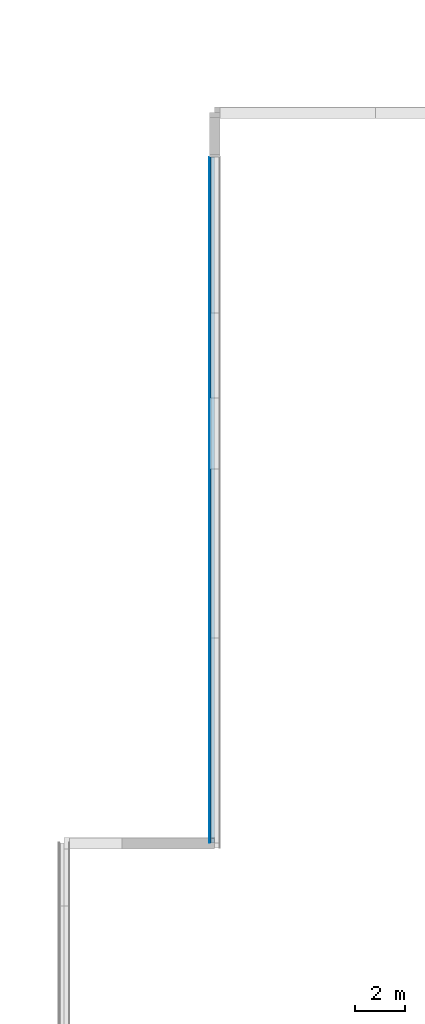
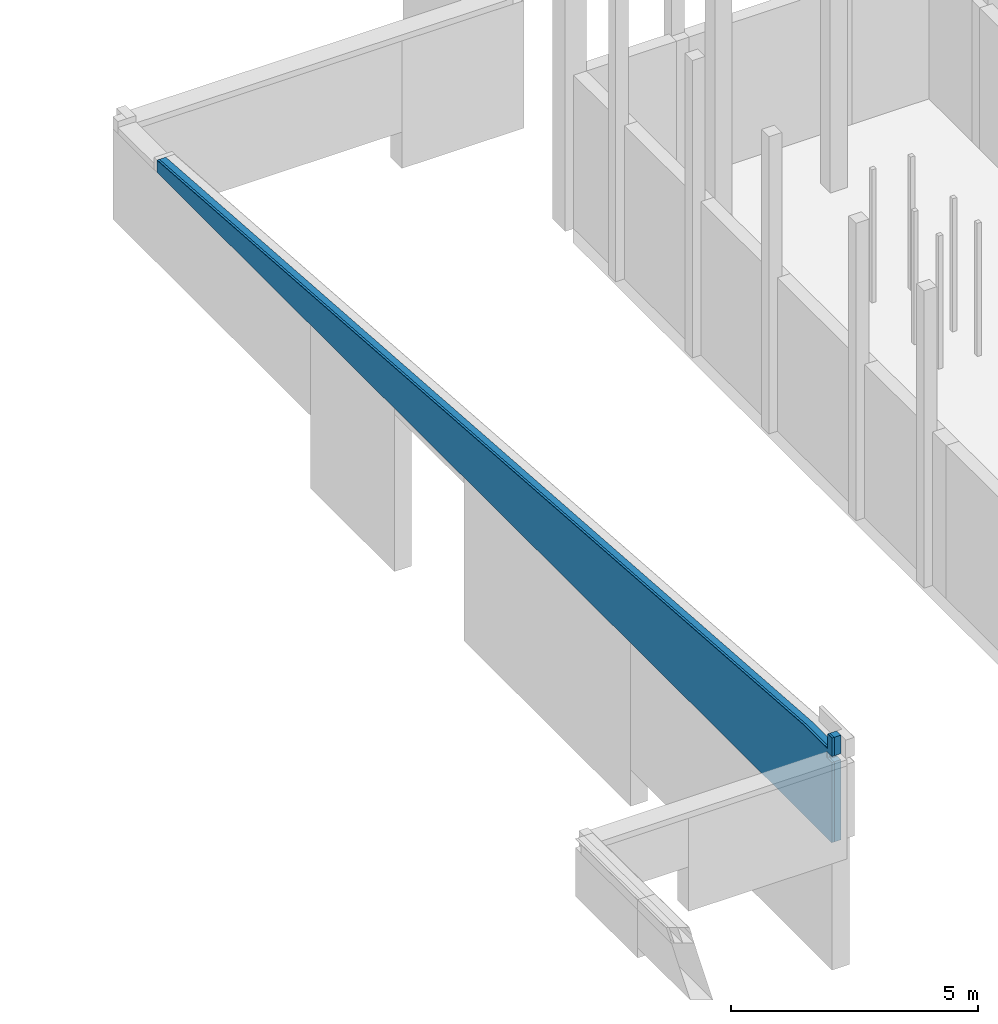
# One storey, part 12 of 17: 3 building element parts, 1 element without a shape of its own.
"""IFC2X3 building model written with IfcOpenShell, lengths in millimetres."""

import ifcopenshell
import ifcopenshell.guid

model = None  # the IFC model being written
_history = None  # IfcOwnerHistory: only IFC2X3 demands one
_inside = {}  # id of a spatial element -> (the spatial element, [elements in it])
_under = {}  # id of a project, library or spatial element -> (it, [spatial elements below it])
_declared = {}  # id of a project -> (the project, [libraries it declares])
_typed = {}  # id of a type object -> (the type object, [elements of that type])
_made_of = {}  # id of a material, layer set ... -> (it, [elements and type objects made of it])


def new_model(schema):
    """Start an empty IFC model of exactly this schema.

    Asked for "IFC4X3", IfcOpenShell would pick the latest addendum, in which some entities
    have other attributes; the version numbers below select the first issue.
    IFC2X3 requires an IfcOwnerHistory on every rooted entity: one is made here for all.
    """
    global model, _history
    if schema == "IFC4X3":
        model = ifcopenshell.file(schema_version=(4, 3, 0, 0))
    else:
        model = ifcopenshell.file(schema=schema)
    _inside.clear()
    _under.clear()
    _declared.clear()
    _typed.clear()
    _made_of.clear()
    _history = None
    if model.schema == "IFC2X3":
        org = make("IfcOrganization", Name="unknown")
        user = make(
            "IfcPersonAndOrganization",
            ThePerson=make("IfcPerson", FamilyName="unknown"),
            TheOrganization=org,
        )
        app = make(
            "IfcApplication",
            ApplicationDeveloper=org,
            Version="unknown",
            ApplicationFullName="unknown",
            ApplicationIdentifier="unknown",
        )
        _history = make(
            "IfcOwnerHistory",
            OwningUser=user,
            OwningApplication=app,
            ChangeAction="ADDED",
            CreationDate=0,
        )
    return model


def make(cls, **values):
    """One entity of the class cls with the attributes given. An attribute that is None is left unset."""
    return model.create_entity(
        cls, **{name: value for name, value in values.items() if value is not None}
    )


def entity(cls, *values):
    """Any entity or typed value of the class cls, its attributes in the order of the schema. None: left unset."""
    e = model.create_entity(cls)
    for i, value in enumerate(values):
        if value is not None:
            e[i] = value
    return e


def rooted(cls, **values):
    """An entity with a GlobalId (a new one), such as an element, a storey or a relation."""
    return make(cls, GlobalId=ifcopenshell.guid.new(), OwnerHistory=_history, **values)


def si_unit(unit_type, name, prefix=None):
    """IfcSIUnit, for example si_unit("LENGTHUNIT", "METRE", prefix="MILLI")."""
    return make("IfcSIUnit", UnitType=unit_type, Prefix=prefix, Name=name)


def converted_unit(unit_type, name, factor, base, dimensions=None, offset=None):
    """IfcConversionBasedUnit, such as the inch: factor (a typed value) times the base unit."""
    return make(
        "IfcConversionBasedUnit"
        if offset is None
        else "IfcConversionBasedUnitWithOffset",
        ConversionOffset=offset,
        Dimensions=None
        if dimensions is None
        else entity("IfcDimensionalExponents", *dimensions),
        UnitType=unit_type,
        Name=name,
        ConversionFactor=make(
            "IfcMeasureWithUnit", ValueComponent=factor, UnitComponent=base
        ),
    )


def derived_unit(unit_type, elements):
    """IfcDerivedUnit: a product of units, each with its exponent."""
    return make(
        "IfcDerivedUnit",
        Elements=[
            make("IfcDerivedUnitElement", Unit=unit, Exponent=power)
            for unit, power in elements
        ],
        UnitType=unit_type,
    )


def money_unit(currency):
    """IfcMonetaryUnit."""
    return make("IfcMonetaryUnit", Currency=currency)


def assignment(units):
    """IfcUnitAssignment: the units of a project."""
    return None if units is None else make("IfcUnitAssignment", Units=units)


def point(xyz):
    """IfcCartesianPoint."""
    return None if xyz is None else make("IfcCartesianPoint", Coordinates=xyz)


def direction(xyz):
    """IfcDirection."""
    return None if xyz is None else make("IfcDirection", DirectionRatios=xyz)


def frame(location, z_axis=None, x_axis=None):
    """IfcAxis2Placement3D, a coordinate frame: its origin and axes. An axis left out is left unset."""
    return make(
        "IfcAxis2Placement3D",
        Location=point(location),
        Axis=direction(z_axis),
        RefDirection=direction(x_axis),
    )


def origin_with_axes():
    """The frame at (0, 0, 0) with the z axis (0, 0, 1) and the x axis (1, 0, 0) written out."""
    return frame((0.0, 0.0, 0.0), z_axis=(0.0, 0.0, 1.0), x_axis=(1.0, 0.0, 0.0))


def place(relative_to, where):
    """IfcLocalPlacement: puts the frame where relative to a parent placement (None: the world)."""
    return make(
        "IfcLocalPlacement", PlacementRelTo=relative_to, RelativePlacement=where
    )


def context(
    kind, dimensions, precision=None, world=None, true_north=None, identifier=None
):
    """IfcGeometricRepresentationContext, for example the 3D "Model" context."""
    return make(
        "IfcGeometricRepresentationContext",
        ContextIdentifier=identifier,
        ContextType=kind,
        CoordinateSpaceDimension=dimensions,
        Precision=precision,
        WorldCoordinateSystem=world,
        TrueNorth=true_north,
    )


def subcontext(parent, identifier, kind, view, scale=None):
    """IfcGeometricRepresentationSubContext, for example "Body" below "Model"."""
    return make(
        "IfcGeometricRepresentationSubContext",
        ContextIdentifier=identifier,
        ContextType=kind,
        ParentContext=parent,
        TargetScale=scale,
        TargetView=view,
    )


def project(units=None, contexts=None):
    """IfcProject with its units and contexts."""
    return rooted(
        "IfcProject",
        Name="project",
        RepresentationContexts=contexts,
        UnitsInContext=assignment(units),
    )


def spatial(cls, under=None, at=None, **own):
    """A site, building, storey or space (cls), placed at a placement, below another one or the project."""
    s = rooted(cls, ObjectPlacement=at, **own)
    if under is not None:
        _under.setdefault(under.id(), (under, []))[1].append(s)
    return s


def polyline(points):
    """IfcPolyline through the points."""
    return make("IfcPolyline", Points=[point(p) for p in points])


def outline(outer, holes=None, kind="AREA"):
    """IfcArbitraryClosedProfileDef: a profile drawn as a closed curve; with holes, ...WithVoids."""
    if holes is None:
        return make("IfcArbitraryClosedProfileDef", ProfileType=kind, OuterCurve=outer)
    return make(
        "IfcArbitraryProfileDefWithVoids",
        ProfileType=kind,
        OuterCurve=outer,
        InnerCurves=holes,
    )


def extrude(swept, where, along, depth):
    """IfcExtrudedAreaSolid: the profile swept, set in the frame where, extruded along a direction by depth."""
    return make(
        "IfcExtrudedAreaSolid",
        SweptArea=swept,
        Position=where,
        ExtrudedDirection=direction(along),
        Depth=depth,
    )


def boolean(op, a, b):
    """IfcBooleanResult of two solids."""
    return make("IfcBooleanResult", Operator=op, FirstOperand=a, SecondOperand=b)


def faces_of(points, faces, orient=None, outer=None):
    """IfcFace entities. A face is a list of loops; a loop is a list of indices into points, from 0.

    orient and outer hold one flag for each loop. By default every Orientation is true, the
    first loop of a face is its IfcFaceOuterBound and the others are IfcFaceBound.
    """
    made = []
    for i, loops in enumerate(faces):
        bounds = []
        for j, loop in enumerate(loops):
            is_outer = j == 0 if outer is None else outer[i][j]
            bounds.append(
                make(
                    "IfcFaceOuterBound" if is_outer else "IfcFaceBound",
                    Bound=make("IfcPolyLoop", Polygon=[points[k] for k in loop]),
                    Orientation=True if orient is None else orient[i][j],
                )
            )
        made.append(make("IfcFace", Bounds=bounds))
    return made


def faceted_brep(points, faces, orient=None, outer=None, voids=None):
    """IfcFacetedBrep: a solid bounded by flat faces; with voids (closed shells), ...WithVoids."""
    shared = [point(p) for p in points]
    hull = make("IfcClosedShell", CfsFaces=faces_of(shared, faces, orient, outer))
    if voids is None:
        return make("IfcFacetedBrep", Outer=hull)
    return make(
        "IfcFacetedBrepWithVoids",
        Outer=hull,
        Voids=[
            make(cls, CfsFaces=faces_of(shared, fs, o, b)) for cls, fs, o, b in voids
        ],
    )


def shape(context_of_items, identifier, shape_type, items):
    """IfcShapeRepresentation: the items that make up one representation, for example the "Body"."""
    return make(
        "IfcShapeRepresentation",
        ContextOfItems=context_of_items,
        RepresentationIdentifier=identifier,
        RepresentationType=shape_type,
        Items=items,
    )


def material(Name=None, Category=None):
    """IfcMaterial."""
    return make("IfcMaterial", Name=Name, Category=Category)


def made_of(thing, what):
    """Note that an element or type object is made of a material, layer set ...; save() writes the relation."""
    if what is not None:
        _made_of.setdefault(what.id(), (what, []))[1].append(thing)
    return thing


def type_object(cls, material=None, **own):
    """A type object (cls), such as IfcWallType, which elements share."""
    return made_of(rooted(cls, **own), material)


def element(
    cls,
    number,
    at=None,
    inside=None,
    cuts=None,
    type_object=None,
    material=None,
    context=None,
    identifier="Body",
    shape_type=None,
    held_by="IfcProductDefinitionShape",
    body=None,
    shapes=None,
    **own,
):
    """One element of the class cls, such as IfcWall. Its Tag is "e" and its number.

    at: its placement. inside: the storey or other place that contains it. cuts: it is an
    opening in that element (IfcRelVoidsElement). A single representation is given by context,
    identifier, shape_type and body (its items); several are given by shapes. held_by: the class
    of the entity that holds the representations. save() writes the other relations.
    """
    e = rooted(cls, Tag="e%d" % number, ObjectPlacement=at, **own)
    if body is not None:
        shapes = [shape(context, identifier, shape_type, body)]
    if shapes is not None:
        e.Representation = make(held_by, Representations=shapes)
    if inside is not None:
        _inside.setdefault(inside.id(), (inside, []))[1].append(e)
    if cuts is not None:
        rooted(
            "IfcRelVoidsElement", RelatingBuildingElement=cuts, RelatedOpeningElement=e
        )
    if type_object is not None:
        _typed.setdefault(type_object.id(), (type_object, []))[1].append(e)
    return made_of(e, material)


def aggregate(whole, parts):
    """IfcRelAggregates: a whole, such as a stair, and the parts it consists of."""
    return rooted("IfcRelAggregates", RelatingObject=whole, RelatedObjects=parts)


def save(model, path):
    """Write the relations noted so far, then the file.

    IfcRelAggregates (storeys below a building ...), IfcRelContainedInSpatialStructure (elements
    in a storey), IfcRelDefinesByType, IfcRelAssociatesMaterial and IfcRelDeclares: one each for
    every whole, place, type object, material and project.
    """
    for whole, parts in _under.values():
        aggregate(whole, parts)
    for where, things in _inside.values():
        rooted(
            "IfcRelContainedInSpatialStructure",
            RelatedElements=things,
            RelatingStructure=where,
        )
    for kind, things in _typed.values():
        rooted("IfcRelDefinesByType", RelatedObjects=things, RelatingType=kind)
    for what, things in _made_of.values():
        rooted("IfcRelAssociatesMaterial", RelatedObjects=things, RelatingMaterial=what)
    for by, libraries in _declared.values():
        rooted("IfcRelDeclares", RelatingContext=by, RelatedDefinitions=libraries)
    model.write(path)


model = new_model("IFC2X3")

# Units and contexts
model_context = context("Model", 3, precision=0.01, world=origin_with_axes(), true_north=direction((0.0, 1.0)))
body_context = subcontext(model_context, "Body", "Model", "MODEL_VIEW")
ifc_project = project(units=[si_unit("LENGTHUNIT", "METRE", prefix="MILLI"), si_unit("AREAUNIT", "SQUARE_METRE"), si_unit("VOLUMEUNIT", "CUBIC_METRE"), converted_unit("PLANEANGLEUNIT", "DEGREE", entity("IfcPlaneAngleMeasure", 0.0174532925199), si_unit("PLANEANGLEUNIT", "RADIAN"), dimensions=[0, 0, 0, 0, 0, 0, 0]), si_unit("SOLIDANGLEUNIT", "STERADIAN"), money_unit("EUR"), converted_unit("TIMEUNIT", "Year", entity("IfcTimeMeasure", 31556926.0), si_unit("TIMEUNIT", "SECOND"), dimensions=[0, 0, 1, 0, 0, 0, 0]), si_unit("MASSUNIT", "GRAM", prefix="KILO"), si_unit("THERMODYNAMICTEMPERATUREUNIT", "DEGREE_CELSIUS"), si_unit("LUMINOUSINTENSITYUNIT", "LUMEN"), si_unit("ENERGYUNIT", "JOULE", prefix="MEGA"), derived_unit("THERMALCONDUCTANCEUNIT", [(si_unit("POWERUNIT", "WATT"), 1), (si_unit("LENGTHUNIT", "METRE"), -1), (si_unit("THERMODYNAMICTEMPERATUREUNIT", "KELVIN"), -1)]), derived_unit("SPECIFICHEATCAPACITYUNIT", [(si_unit("ENERGYUNIT", "JOULE"), 1), (si_unit("MASSUNIT", "GRAM", prefix="KILO"), -1), (si_unit("THERMODYNAMICTEMPERATUREUNIT", "KELVIN"), -1)]), derived_unit("MASSDENSITYUNIT", [(si_unit("MASSUNIT", "GRAM", prefix="KILO"), 1), (si_unit("VOLUMEUNIT", "CUBIC_METRE"), -1)])], contexts=[model_context])

# Site, building, storey
site_placement = place(None, origin_with_axes())
site = spatial("IfcSite", under=ifc_project, at=site_placement, Name="Puškini 31, Narva", CompositionType="ELEMENT")
building_placement = place(site_placement, origin_with_axes())
building = spatial("IfcBuilding", under=site, at=building_placement, Name="Narva Riigigümnaasium", CompositionType="ELEMENT")
storey_placement = place(building_placement, frame((0.0, 0.0, -6800.0), z_axis=(0.0, 0.0, 1.0), x_axis=(1.0, 0.0, 0.0)))
storey = spatial("IfcBuildingStorey", under=building, at=storey_placement, Name="0.korrus -6.8", CompositionType="ELEMENT", Elevation=-6800.0)

# Wall, building element parts
wall_type = type_object("IfcWallType", Name="G-VS-02 420", PredefinedType="NOTDEFINED")
wall_placement = place(storey_placement, frame((28200.0401775, 222218.741711, 3350.0), z_axis=(0.0, 0.0, 1.0), x_axis=(0.0, -1.0, 0.0)))
wall = element("IfcWall", 1, at=wall_placement, inside=storey, type_object=wall_type, Name="Sisesein")
ifc_material_1 = material(Name="Salto-PIR soojustus")
building_element_part_1_placement = place(wall_placement, origin_with_axes())
solid_1 = boolean("DIFFERENCE", boolean("DIFFERENCE", boolean("DIFFERENCE", boolean("DIFFERENCE", boolean("DIFFERENCE", boolean("DIFFERENCE", boolean("DIFFERENCE", boolean("DIFFERENCE", extrude(outline(polyline([(0.0, -150.0), (27568.7417106, -150.0), (27568.7417106, 0.0), (0.0, 0.0), (0.0, -150.0)])), origin_with_axes(), (0.0, 0.0, 1.0), 2585.0), faceted_brep([(24143.7420091, 210.0, 149.0), (22983.7419947, 210.0, 149.0), (22983.7419947, 210.0, 150.0), (24143.7420091, 210.0, 150.0), (24143.7420091, 209.981881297, 149.0), (22983.7419947, 209.947273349, 149.0), (22983.7419947, 209.947273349, 150.0), (24143.7420091, 209.981881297, 150.0)], [[[0, 1, 2, 3]], [[1, 0, 4, 5]], [[2, 1, 5, 6]], [[3, 2, 6, 7]], [[0, 3, 7, 4]], [[6, 5, 4, 7]]])), faceted_brep([(17534.3056808, 210.0, 149.0), (16258.7420003, 210.0, 149.0), (16258.7420003, 210.0, 150.0), (17534.3056808, 210.0, 150.0), (17534.3056808, 209.784655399, 149.0), (16258.7420003, 209.746602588, 149.0), (16258.7420003, 209.746602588, 150.0), (17534.3056808, 209.784655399, 150.0)], [[[0, 1, 2, 3]], [[1, 0, 4, 5]], [[2, 1, 5, 6]], [[3, 2, 6, 7]], [[0, 3, 7, 4]], [[6, 5, 4, 7]]])), faceted_brep([(0.0, 200.0, 150.0), (0.0, 210.0, 150.0), (0.0, 210.0, 0.0), (0.0, 200.0, 0.0), (938.741711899, 210.0, 150.0), (938.741755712, 199.999997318, 150.0), (938.741755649, 209.289465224, 150.0), (27518.7417109, 210.0, 2130.0), (27518.7417109, 210.0, 2585.0), (27568.7417106, 210.0, 2585.0), (27568.7417106, 210.0, 0.0), (938.741755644, 210.0, 149.0), (938.741757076, 210.0, 140.0), (17568.7419679, 210.0, 140.0), (17568.7419679, 210.0, 149.0), (17568.7419679, 210.0, 150.0), (22958.7419947, 210.0, 150.0), (22958.7419947, 210.0, 140.0), (27318.7417106, 210.0, 140.0), (27318.7417106, 210.0, 150.000002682), (27518.7417109, 210.0, 150.000002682), (27518.7417109, 210.0, 1980.0), (27318.7417106, 210.0, 1980.0), (27318.7417106, 210.0, 2130.0), (27568.7417106, 200.0, 0.0), (27568.7417106, 200.0, 2585.0), (27518.7417109, 200.0, 2585.0), (27518.7417109, 200.0, 2130.0), (27318.7417106, 199.999997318, 2130.0), (27318.7417106, 199.999997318, 1980.0), (27518.7417109, 200.0, 1980.0), (27518.7417109, 199.999997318, 150.000002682), (27318.7417106, 199.999997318, 150.000002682), (27318.7417106, 199.999997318, 140.0), (22958.7419947, 199.999997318, 140.0), (22958.7419947, 199.999997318, 150.0), (17568.7419679, 199.999997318, 150.0), (17568.7419679, 199.999997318, 140.0), (938.741757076, 199.999997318, 140.0), (938.741755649, 209.289465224, 149.0), (17568.7419679, 209.785692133, 150.0), (17568.7419679, 209.785692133, 149.0)], [[[0, 1, 2, 3]], [[4, 1, 0, 5, 6]], [[7, 8, 9, 10, 2, 1, 4, 11, 12, 13, 14, 15, 16, 17, 18, 19, 20, 21, 22, 23]], [[24, 3, 2, 10]], [[5, 0, 3, 24, 25, 26, 27, 28, 29, 30, 31, 32, 33, 34, 35, 36, 37, 38]], [[12, 11, 39, 6, 5, 38]], [[11, 4, 6, 39]], [[26, 8, 7, 27]], [[8, 26, 25, 9]], [[25, 24, 10, 9]], [[13, 12, 38, 37]], [[14, 13, 37, 36, 40, 41]], [[15, 14, 41, 40]], [[16, 15, 40, 36, 35]], [[17, 16, 35, 34]], [[18, 17, 34, 33]], [[19, 18, 33, 32]], [[20, 19, 32, 31]], [[21, 20, 31, 30]], [[22, 21, 30, 29]], [[23, 22, 29, 28]], [[7, 23, 28, 27]]])), faceted_brep([(26218.9774093, 210.0, 2585.0), (26218.9774093, 210.0, 2224.59009685), (0.0, 210.0, 300.403404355), (0.0, 210.0, 2585.0), (26218.9774093, 200.0, 2585.0), (26218.9774093, 200.0, 2224.59009685), (0.0, 200.0, 300.403404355), (0.0, 200.0, 2585.0)], [[[0, 1, 2, 3]], [[1, 0, 4, 5]], [[6, 2, 1, 5]], [[2, 6, 7, 3]], [[4, 0, 3, 7]], [[5, 4, 7, 6]]])), faceted_brep([(27518.7417109, 200.0, 1980.0), (27318.7417106, 199.999997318, 1980.0), (27318.7417106, 199.999997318, 2130.0), (27518.7417109, 200.0, 2130.0), (27518.7417109, 200.0, 2585.0), (27568.7417106, 200.0, 2585.0), (27568.7417106, 200.0, 0.0), (27318.7417106, 199.999997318, 0.0), (27318.7417106, 199.999997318, 150.000002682), (27518.7417109, 199.999997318, 150.000002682), (27518.7417109, 0.0, 1980.0), (27318.7417109, 0.0, 1980.0), (27318.7417109, 0.0, 2130.0), (27518.7417109, 0.0, 2130.0), (27518.7417109, 0.0, 2585.0), (27568.7417106, 0.0, 2585.0), (27568.7417106, 0.0, 0.0), (27318.7417106, 0.0, 0.0), (27318.7417106, 0.0, 150.000002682), (27518.7417109, 0.0, 150.000002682)], [[[0, 1, 2, 3, 4, 5, 6, 7, 8, 9]], [[10, 11, 1, 0]], [[11, 12, 2, 1]], [[12, 13, 3, 2]], [[14, 4, 3, 13]], [[4, 14, 15, 5]], [[15, 16, 6, 5]], [[17, 7, 6, 16]], [[7, 17, 18, 8]], [[18, 19, 9, 8]], [[19, 10, 0, 9]], [[18, 17, 16, 15, 14, 13, 12, 11, 10, 19]]])), faceted_brep([(26218.9774093, 200.0, 2585.0), (26218.9774093, 200.0, 2224.59009685), (0.0, 200.0, 300.403404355), (0.0, 200.0, 2585.0), (26218.9774093, 123.503081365, 2585.0), (26218.9774093, 123.503081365, 2224.59009685), (0.0, 0.0, 300.403404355), (26218.9774093, 0.0, 2224.59009685), (0.0, 0.0, 2585.0), (27142.7417107, 0.0, 2585.0), (27142.7417107, 123.503081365, 2585.0), (27142.7417107, 123.503081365, 2224.59009685), (27142.7417107, 0.0, 2224.59009685)], [[[0, 1, 2, 3]], [[1, 0, 4, 5]], [[6, 2, 1, 5, 7]], [[2, 6, 8, 3]], [[4, 0, 3, 8, 9, 10]], [[4, 10, 11, 5]], [[12, 7, 5, 11]], [[12, 9, 8, 6, 7]], [[10, 9, 12, 11]]])), faceted_brep([(27318.7417109, 0.0, 1980.0), (27168.7417106, 0.0, 1980.0), (27168.7417106, 0.0, 2130.0), (27318.7417109, 0.0, 2130.0), (27318.7417109, 0.0, 2585.0), (27568.7417106, 0.0, 2585.0), (27568.7417106, 0.0, 0.0), (27318.7417106, 0.0, 0.0), (27318.7417109, -150.0, 1980.0), (27168.7417106, -150.0, 1980.0), (27168.7417106, -150.0, 2130.0), (27318.7417109, -150.0, 2130.0), (27318.7417109, -150.0, 2585.0), (27568.7417106, -150.0, 2585.0), (27568.7417106, -150.0, 0.0), (27318.7417106, -150.0, 0.0)], [[[0, 1, 2, 3, 4, 5, 6, 7]], [[1, 0, 8, 9]], [[2, 1, 9, 10]], [[3, 2, 10, 11]], [[12, 4, 3, 11]], [[4, 12, 13, 5]], [[13, 14, 6, 5]], [[15, 7, 6, 14]], [[0, 7, 15, 8]], [[8, 15, 14, 13, 12, 11, 10, 9]]])), faceted_brep([(27142.7417107, 0.0, 2224.59009685), (26218.9774093, 0.0, 2224.59009685), (0.0, 0.0, 300.403404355), (0.0, 0.0, 2585.0), (27142.7417107, 0.0, 2585.0), (27142.7417107, -150.0, 2224.59009685), (26218.9774093, -150.0, 2224.59009685), (0.0, -150.0, 300.403404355), (0.0, -150.0, 2585.0), (27142.7417107, -150.0, 2585.0)], [[[0, 1, 2, 3, 4]], [[1, 0, 5, 6]], [[7, 2, 1, 6]], [[2, 7, 8, 3]], [[9, 4, 3, 8]], [[0, 4, 9, 5]], [[5, 9, 8, 7, 6]]]))
building_element_part_1 = element("IfcBuildingElementPart", 2, at=building_element_part_1_placement, material=ifc_material_1, Name="Salto-PIR soojustus", context=body_context, shape_type="CSG", body=[
    boolean("DIFFERENCE", boolean("DIFFERENCE", boolean("DIFFERENCE", boolean("DIFFERENCE", solid_1, faceted_brep([(27168.7417106, -150.0, 1980.0), (27118.7417106, -150.0, 1980.0), (27118.7417106, -150.0, 2130.0), (27168.7417106, -150.0, 2130.0), (27318.7417109, -150.0, 2130.0), (27318.7417109, -150.0, 2585.0), (27568.7417106, -150.0, 2585.0), (27568.7417106, -150.0, 0.0), (27318.7417106, -150.0, 0.0), (27318.7417109, -150.0, 1980.0), (27318.7417109, -199.999998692, 1980.0), (27118.7417106, -199.999997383, 1980.0), (27118.7417106, -199.999997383, 2130.0), (27318.7417109, -199.999998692, 2130.0), (27318.7417109, -200.0, 2585.0), (27568.7417106, -200.0, 2585.0), (27568.7417106, -200.0, 0.0), (27318.7417106, -199.999997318, 0.0)], [[[0, 1, 2, 3, 4, 5, 6, 7, 8, 9]], [[1, 0, 9, 10, 11]], [[2, 1, 11, 12]], [[3, 2, 12, 13, 4]], [[14, 5, 4, 13]], [[5, 14, 15, 6]], [[15, 16, 7, 6]], [[17, 8, 7, 16]], [[9, 8, 17, 10]], [[10, 17, 16, 15, 14, 13, 12, 11]]])), faceted_brep([(27142.7417107, -150.0, 2224.59009685), (26218.9774093, -150.0, 2224.59009685), (0.0, -150.0, 300.403404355), (0.0, -150.0, 2585.0), (27142.7417107, -150.0, 2585.0), (27142.7417107, -200.0, 2224.59009685), (26218.9774093, -200.0, 2224.59009685), (0.0, -200.0, 300.403404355), (0.0, -200.0, 2585.0), (27142.7417107, -200.0, 2585.0)], [[[0, 1, 2, 3, 4]], [[1, 0, 5, 6]], [[7, 2, 1, 6]], [[2, 7, 8, 3]], [[9, 4, 3, 8]], [[0, 4, 9, 5]], [[5, 9, 8, 7, 6]]])), faceted_brep([(27108.7417106, -199.999997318, 1980.0), (27108.7417106, -199.999997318, 2130.0), (27318.7417109, -199.999998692, 2130.0), (27318.7417109, -200.0, 2585.0), (27568.7417106, -200.0, 2585.0), (27568.7417106, -200.0, 0.0), (27318.7417106, -199.999997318, 0.0), (27318.7417109, -199.999998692, 1980.0), (27108.7417106, -210.0, 1980.0), (27108.7417106, -210.0, 2130.0), (27318.7417109, -210.0, 2130.0), (27318.7417109, -210.0, 2585.0), (27568.7417106, -210.0, 2585.0), (27568.7417106, -210.0, 0.0), (27318.7417106, -210.0, 0.0), (27318.7417109, -210.0, 150.0), (27318.7417109, -210.0, 1980.0)], [[[0, 1, 2, 3, 4, 5, 6, 7]], [[1, 0, 8, 9]], [[1, 9, 10, 2]], [[11, 3, 2, 10]], [[3, 11, 12, 4]], [[12, 13, 5, 4]], [[14, 6, 5, 13]], [[6, 14, 15, 16, 7]], [[0, 7, 16, 8]], [[15, 14, 13, 12, 11, 10, 9, 8, 16]]])), faceted_brep([(27142.7417107, -200.0, 2224.59009685), (26218.9774093, -200.0, 2224.59009685), (0.0, -200.0, 300.403404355), (0.0, -200.0, 2585.0), (27142.7417107, -200.0, 2585.0), (27142.7417107, -210.0, 2224.59009685), (26218.9774093, -210.0, 2224.59009685), (0.0, -210.0, 300.403404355), (0.0, -210.0, 2585.0), (27142.7417107, -210.0, 2585.0)], [[[0, 1, 2, 3, 4]], [[1, 0, 5, 6]], [[7, 2, 1, 6]], [[2, 7, 8, 3]], [[9, 4, 3, 8]], [[0, 4, 9, 5]], [[5, 9, 8, 7, 6]]])),
])
building_element_part_2_placement = place(wall_placement, origin_with_axes())
solid_2 = boolean("DIFFERENCE", boolean("DIFFERENCE", boolean("DIFFERENCE", boolean("DIFFERENCE", boolean("DIFFERENCE", boolean("DIFFERENCE", boolean("DIFFERENCE", boolean("DIFFERENCE", extrude(outline(polyline([(0.0, -200.0), (27568.7417106, -200.0), (27568.7417106, -150.0), (0.0, -150.0), (0.0, -200.0)])), origin_with_axes(), (0.0, 0.0, 1.0), 2585.0), faceted_brep([(24143.7420091, 210.0, 149.0), (22983.7419947, 210.0, 149.0), (22983.7419947, 210.0, 150.0), (24143.7420091, 210.0, 150.0), (24143.7420091, 209.981881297, 149.0), (22983.7419947, 209.947273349, 149.0), (22983.7419947, 209.947273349, 150.0), (24143.7420091, 209.981881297, 150.0)], [[[0, 1, 2, 3]], [[1, 0, 4, 5]], [[2, 1, 5, 6]], [[3, 2, 6, 7]], [[0, 3, 7, 4]], [[6, 5, 4, 7]]])), faceted_brep([(17534.3056808, 210.0, 149.0), (16258.7420003, 210.0, 149.0), (16258.7420003, 210.0, 150.0), (17534.3056808, 210.0, 150.0), (17534.3056808, 209.784655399, 149.0), (16258.7420003, 209.746602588, 149.0), (16258.7420003, 209.746602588, 150.0), (17534.3056808, 209.784655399, 150.0)], [[[0, 1, 2, 3]], [[1, 0, 4, 5]], [[2, 1, 5, 6]], [[3, 2, 6, 7]], [[0, 3, 7, 4]], [[6, 5, 4, 7]]])), faceted_brep([(0.0, 200.0, 150.0), (0.0, 210.0, 150.0), (0.0, 210.0, 0.0), (0.0, 200.0, 0.0), (938.741711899, 210.0, 150.0), (938.741755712, 199.999997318, 150.0), (938.741755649, 209.289465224, 150.0), (27518.7417109, 210.0, 2130.0), (27518.7417109, 210.0, 2585.0), (27568.7417106, 210.0, 2585.0), (27568.7417106, 210.0, 0.0), (938.741755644, 210.0, 149.0), (938.741757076, 210.0, 140.0), (17568.7419679, 210.0, 140.0), (17568.7419679, 210.0, 149.0), (17568.7419679, 210.0, 150.0), (22958.7419947, 210.0, 150.0), (22958.7419947, 210.0, 140.0), (27318.7417106, 210.0, 140.0), (27318.7417106, 210.0, 150.000002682), (27518.7417109, 210.0, 150.000002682), (27518.7417109, 210.0, 1980.0), (27318.7417106, 210.0, 1980.0), (27318.7417106, 210.0, 2130.0), (27568.7417106, 200.0, 0.0), (27568.7417106, 200.0, 2585.0), (27518.7417109, 200.0, 2585.0), (27518.7417109, 200.0, 2130.0), (27318.7417106, 199.999997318, 2130.0), (27318.7417106, 199.999997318, 1980.0), (27518.7417109, 200.0, 1980.0), (27518.7417109, 199.999997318, 150.000002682), (27318.7417106, 199.999997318, 150.000002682), (27318.7417106, 199.999997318, 140.0), (22958.7419947, 199.999997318, 140.0), (22958.7419947, 199.999997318, 150.0), (17568.7419679, 199.999997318, 150.0), (17568.7419679, 199.999997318, 140.0), (938.741757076, 199.999997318, 140.0), (938.741755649, 209.289465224, 149.0), (17568.7419679, 209.785692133, 150.0), (17568.7419679, 209.785692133, 149.0)], [[[0, 1, 2, 3]], [[4, 1, 0, 5, 6]], [[7, 8, 9, 10, 2, 1, 4, 11, 12, 13, 14, 15, 16, 17, 18, 19, 20, 21, 22, 23]], [[24, 3, 2, 10]], [[5, 0, 3, 24, 25, 26, 27, 28, 29, 30, 31, 32, 33, 34, 35, 36, 37, 38]], [[12, 11, 39, 6, 5, 38]], [[11, 4, 6, 39]], [[26, 8, 7, 27]], [[8, 26, 25, 9]], [[25, 24, 10, 9]], [[13, 12, 38, 37]], [[14, 13, 37, 36, 40, 41]], [[15, 14, 41, 40]], [[16, 15, 40, 36, 35]], [[17, 16, 35, 34]], [[18, 17, 34, 33]], [[19, 18, 33, 32]], [[20, 19, 32, 31]], [[21, 20, 31, 30]], [[22, 21, 30, 29]], [[23, 22, 29, 28]], [[7, 23, 28, 27]]])), faceted_brep([(26218.9774093, 210.0, 2585.0), (26218.9774093, 210.0, 2224.59009685), (0.0, 210.0, 300.403404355), (0.0, 210.0, 2585.0), (26218.9774093, 200.0, 2585.0), (26218.9774093, 200.0, 2224.59009685), (0.0, 200.0, 300.403404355), (0.0, 200.0, 2585.0)], [[[0, 1, 2, 3]], [[1, 0, 4, 5]], [[6, 2, 1, 5]], [[2, 6, 7, 3]], [[4, 0, 3, 7]], [[5, 4, 7, 6]]])), faceted_brep([(27518.7417109, 200.0, 1980.0), (27318.7417106, 199.999997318, 1980.0), (27318.7417106, 199.999997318, 2130.0), (27518.7417109, 200.0, 2130.0), (27518.7417109, 200.0, 2585.0), (27568.7417106, 200.0, 2585.0), (27568.7417106, 200.0, 0.0), (27318.7417106, 199.999997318, 0.0), (27318.7417106, 199.999997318, 150.000002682), (27518.7417109, 199.999997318, 150.000002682), (27518.7417109, 0.0, 1980.0), (27318.7417109, 0.0, 1980.0), (27318.7417109, 0.0, 2130.0), (27518.7417109, 0.0, 2130.0), (27518.7417109, 0.0, 2585.0), (27568.7417106, 0.0, 2585.0), (27568.7417106, 0.0, 0.0), (27318.7417106, 0.0, 0.0), (27318.7417106, 0.0, 150.000002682), (27518.7417109, 0.0, 150.000002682)], [[[0, 1, 2, 3, 4, 5, 6, 7, 8, 9]], [[10, 11, 1, 0]], [[11, 12, 2, 1]], [[12, 13, 3, 2]], [[14, 4, 3, 13]], [[4, 14, 15, 5]], [[15, 16, 6, 5]], [[17, 7, 6, 16]], [[7, 17, 18, 8]], [[18, 19, 9, 8]], [[19, 10, 0, 9]], [[18, 17, 16, 15, 14, 13, 12, 11, 10, 19]]])), faceted_brep([(26218.9774093, 200.0, 2585.0), (26218.9774093, 200.0, 2224.59009685), (0.0, 200.0, 300.403404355), (0.0, 200.0, 2585.0), (26218.9774093, 123.503081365, 2585.0), (26218.9774093, 123.503081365, 2224.59009685), (0.0, 0.0, 300.403404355), (26218.9774093, 0.0, 2224.59009685), (0.0, 0.0, 2585.0), (27142.7417107, 0.0, 2585.0), (27142.7417107, 123.503081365, 2585.0), (27142.7417107, 123.503081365, 2224.59009685), (27142.7417107, 0.0, 2224.59009685)], [[[0, 1, 2, 3]], [[1, 0, 4, 5]], [[6, 2, 1, 5, 7]], [[2, 6, 8, 3]], [[4, 0, 3, 8, 9, 10]], [[4, 10, 11, 5]], [[12, 7, 5, 11]], [[12, 9, 8, 6, 7]], [[10, 9, 12, 11]]])), faceted_brep([(27318.7417109, 0.0, 1980.0), (27168.7417106, 0.0, 1980.0), (27168.7417106, 0.0, 2130.0), (27318.7417109, 0.0, 2130.0), (27318.7417109, 0.0, 2585.0), (27568.7417106, 0.0, 2585.0), (27568.7417106, 0.0, 0.0), (27318.7417106, 0.0, 0.0), (27318.7417109, -150.0, 1980.0), (27168.7417106, -150.0, 1980.0), (27168.7417106, -150.0, 2130.0), (27318.7417109, -150.0, 2130.0), (27318.7417109, -150.0, 2585.0), (27568.7417106, -150.0, 2585.0), (27568.7417106, -150.0, 0.0), (27318.7417106, -150.0, 0.0)], [[[0, 1, 2, 3, 4, 5, 6, 7]], [[1, 0, 8, 9]], [[2, 1, 9, 10]], [[3, 2, 10, 11]], [[12, 4, 3, 11]], [[4, 12, 13, 5]], [[13, 14, 6, 5]], [[15, 7, 6, 14]], [[0, 7, 15, 8]], [[8, 15, 14, 13, 12, 11, 10, 9]]])), faceted_brep([(27142.7417107, 0.0, 2224.59009685), (26218.9774093, 0.0, 2224.59009685), (0.0, 0.0, 300.403404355), (0.0, 0.0, 2585.0), (27142.7417107, 0.0, 2585.0), (27142.7417107, -150.0, 2224.59009685), (26218.9774093, -150.0, 2224.59009685), (0.0, -150.0, 300.403404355), (0.0, -150.0, 2585.0), (27142.7417107, -150.0, 2585.0)], [[[0, 1, 2, 3, 4]], [[1, 0, 5, 6]], [[7, 2, 1, 6]], [[2, 7, 8, 3]], [[9, 4, 3, 8]], [[0, 4, 9, 5]], [[5, 9, 8, 7, 6]]]))
building_element_part_2 = element("IfcBuildingElementPart", 3, at=building_element_part_2_placement, material=ifc_material_1, Name="Salto-PIR soojustus", context=body_context, shape_type="CSG", body=[
    boolean("DIFFERENCE", boolean("DIFFERENCE", boolean("DIFFERENCE", boolean("DIFFERENCE", solid_2, faceted_brep([(27168.7417106, -150.0, 1980.0), (27118.7417106, -150.0, 1980.0), (27118.7417106, -150.0, 2130.0), (27168.7417106, -150.0, 2130.0), (27318.7417109, -150.0, 2130.0), (27318.7417109, -150.0, 2585.0), (27568.7417106, -150.0, 2585.0), (27568.7417106, -150.0, 0.0), (27318.7417106, -150.0, 0.0), (27318.7417109, -150.0, 1980.0), (27318.7417109, -199.999998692, 1980.0), (27118.7417106, -199.999997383, 1980.0), (27118.7417106, -199.999997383, 2130.0), (27318.7417109, -199.999998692, 2130.0), (27318.7417109, -200.0, 2585.0), (27568.7417106, -200.0, 2585.0), (27568.7417106, -200.0, 0.0), (27318.7417106, -199.999997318, 0.0)], [[[0, 1, 2, 3, 4, 5, 6, 7, 8, 9]], [[1, 0, 9, 10, 11]], [[2, 1, 11, 12]], [[3, 2, 12, 13, 4]], [[14, 5, 4, 13]], [[5, 14, 15, 6]], [[15, 16, 7, 6]], [[17, 8, 7, 16]], [[9, 8, 17, 10]], [[10, 17, 16, 15, 14, 13, 12, 11]]])), faceted_brep([(27142.7417107, -150.0, 2224.59009685), (26218.9774093, -150.0, 2224.59009685), (0.0, -150.0, 300.403404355), (0.0, -150.0, 2585.0), (27142.7417107, -150.0, 2585.0), (27142.7417107, -200.0, 2224.59009685), (26218.9774093, -200.0, 2224.59009685), (0.0, -200.0, 300.403404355), (0.0, -200.0, 2585.0), (27142.7417107, -200.0, 2585.0)], [[[0, 1, 2, 3, 4]], [[1, 0, 5, 6]], [[7, 2, 1, 6]], [[2, 7, 8, 3]], [[9, 4, 3, 8]], [[0, 4, 9, 5]], [[5, 9, 8, 7, 6]]])), faceted_brep([(27108.7417106, -199.999997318, 1980.0), (27108.7417106, -199.999997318, 2130.0), (27318.7417109, -199.999998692, 2130.0), (27318.7417109, -200.0, 2585.0), (27568.7417106, -200.0, 2585.0), (27568.7417106, -200.0, 0.0), (27318.7417106, -199.999997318, 0.0), (27318.7417109, -199.999998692, 1980.0), (27108.7417106, -210.0, 1980.0), (27108.7417106, -210.0, 2130.0), (27318.7417109, -210.0, 2130.0), (27318.7417109, -210.0, 2585.0), (27568.7417106, -210.0, 2585.0), (27568.7417106, -210.0, 0.0), (27318.7417106, -210.0, 0.0), (27318.7417109, -210.0, 150.0), (27318.7417109, -210.0, 1980.0)], [[[0, 1, 2, 3, 4, 5, 6, 7]], [[1, 0, 8, 9]], [[1, 9, 10, 2]], [[11, 3, 2, 10]], [[3, 11, 12, 4]], [[12, 13, 5, 4]], [[14, 6, 5, 13]], [[6, 14, 15, 16, 7]], [[0, 7, 16, 8]], [[15, 14, 13, 12, 11, 10, 9, 8, 16]]])), faceted_brep([(27142.7417107, -200.0, 2224.59009685), (26218.9774093, -200.0, 2224.59009685), (0.0, -200.0, 300.403404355), (0.0, -200.0, 2585.0), (27142.7417107, -200.0, 2585.0), (27142.7417107, -210.0, 2224.59009685), (26218.9774093, -210.0, 2224.59009685), (0.0, -210.0, 300.403404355), (0.0, -210.0, 2585.0), (27142.7417107, -210.0, 2585.0)], [[[0, 1, 2, 3, 4]], [[1, 0, 5, 6]], [[7, 2, 1, 6]], [[2, 7, 8, 3]], [[9, 4, 3, 8]], [[0, 4, 9, 5]], [[5, 9, 8, 7, 6]]])),
])
ifc_material_2 = material(Name="Krohv")
building_element_part_3_placement = place(wall_placement, origin_with_axes())
solid_3 = boolean("DIFFERENCE", boolean("DIFFERENCE", boolean("DIFFERENCE", boolean("DIFFERENCE", boolean("DIFFERENCE", boolean("DIFFERENCE", boolean("DIFFERENCE", boolean("DIFFERENCE", extrude(outline(polyline([(0.0, -210.0), (27568.7417106, -210.0), (27568.7417106, -200.0), (0.0, -200.0), (0.0, -210.0)])), origin_with_axes(), (0.0, 0.0, 1.0), 2585.0), faceted_brep([(24143.7420091, 210.0, 149.0), (22983.7419947, 210.0, 149.0), (22983.7419947, 210.0, 150.0), (24143.7420091, 210.0, 150.0), (24143.7420091, 209.981881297, 149.0), (22983.7419947, 209.947273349, 149.0), (22983.7419947, 209.947273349, 150.0), (24143.7420091, 209.981881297, 150.0)], [[[0, 1, 2, 3]], [[1, 0, 4, 5]], [[2, 1, 5, 6]], [[3, 2, 6, 7]], [[0, 3, 7, 4]], [[6, 5, 4, 7]]])), faceted_brep([(17534.3056808, 210.0, 149.0), (16258.7420003, 210.0, 149.0), (16258.7420003, 210.0, 150.0), (17534.3056808, 210.0, 150.0), (17534.3056808, 209.784655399, 149.0), (16258.7420003, 209.746602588, 149.0), (16258.7420003, 209.746602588, 150.0), (17534.3056808, 209.784655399, 150.0)], [[[0, 1, 2, 3]], [[1, 0, 4, 5]], [[2, 1, 5, 6]], [[3, 2, 6, 7]], [[0, 3, 7, 4]], [[6, 5, 4, 7]]])), faceted_brep([(0.0, 200.0, 150.0), (0.0, 210.0, 150.0), (0.0, 210.0, 0.0), (0.0, 200.0, 0.0), (938.741711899, 210.0, 150.0), (938.741755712, 199.999997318, 150.0), (938.741755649, 209.289465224, 150.0), (27518.7417109, 210.0, 2130.0), (27518.7417109, 210.0, 2585.0), (27568.7417106, 210.0, 2585.0), (27568.7417106, 210.0, 0.0), (938.741755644, 210.0, 149.0), (938.741757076, 210.0, 140.0), (17568.7419679, 210.0, 140.0), (17568.7419679, 210.0, 149.0), (17568.7419679, 210.0, 150.0), (22958.7419947, 210.0, 150.0), (22958.7419947, 210.0, 140.0), (27318.7417106, 210.0, 140.0), (27318.7417106, 210.0, 150.000002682), (27518.7417109, 210.0, 150.000002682), (27518.7417109, 210.0, 1980.0), (27318.7417106, 210.0, 1980.0), (27318.7417106, 210.0, 2130.0), (27568.7417106, 200.0, 0.0), (27568.7417106, 200.0, 2585.0), (27518.7417109, 200.0, 2585.0), (27518.7417109, 200.0, 2130.0), (27318.7417106, 199.999997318, 2130.0), (27318.7417106, 199.999997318, 1980.0), (27518.7417109, 200.0, 1980.0), (27518.7417109, 199.999997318, 150.000002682), (27318.7417106, 199.999997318, 150.000002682), (27318.7417106, 199.999997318, 140.0), (22958.7419947, 199.999997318, 140.0), (22958.7419947, 199.999997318, 150.0), (17568.7419679, 199.999997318, 150.0), (17568.7419679, 199.999997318, 140.0), (938.741757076, 199.999997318, 140.0), (938.741755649, 209.289465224, 149.0), (17568.7419679, 209.785692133, 150.0), (17568.7419679, 209.785692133, 149.0)], [[[0, 1, 2, 3]], [[4, 1, 0, 5, 6]], [[7, 8, 9, 10, 2, 1, 4, 11, 12, 13, 14, 15, 16, 17, 18, 19, 20, 21, 22, 23]], [[24, 3, 2, 10]], [[5, 0, 3, 24, 25, 26, 27, 28, 29, 30, 31, 32, 33, 34, 35, 36, 37, 38]], [[12, 11, 39, 6, 5, 38]], [[11, 4, 6, 39]], [[26, 8, 7, 27]], [[8, 26, 25, 9]], [[25, 24, 10, 9]], [[13, 12, 38, 37]], [[14, 13, 37, 36, 40, 41]], [[15, 14, 41, 40]], [[16, 15, 40, 36, 35]], [[17, 16, 35, 34]], [[18, 17, 34, 33]], [[19, 18, 33, 32]], [[20, 19, 32, 31]], [[21, 20, 31, 30]], [[22, 21, 30, 29]], [[23, 22, 29, 28]], [[7, 23, 28, 27]]])), faceted_brep([(26218.9774093, 210.0, 2585.0), (26218.9774093, 210.0, 2224.59009685), (0.0, 210.0, 300.403404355), (0.0, 210.0, 2585.0), (26218.9774093, 200.0, 2585.0), (26218.9774093, 200.0, 2224.59009685), (0.0, 200.0, 300.403404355), (0.0, 200.0, 2585.0)], [[[0, 1, 2, 3]], [[1, 0, 4, 5]], [[6, 2, 1, 5]], [[2, 6, 7, 3]], [[4, 0, 3, 7]], [[5, 4, 7, 6]]])), faceted_brep([(27518.7417109, 200.0, 1980.0), (27318.7417106, 199.999997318, 1980.0), (27318.7417106, 199.999997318, 2130.0), (27518.7417109, 200.0, 2130.0), (27518.7417109, 200.0, 2585.0), (27568.7417106, 200.0, 2585.0), (27568.7417106, 200.0, 0.0), (27318.7417106, 199.999997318, 0.0), (27318.7417106, 199.999997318, 150.000002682), (27518.7417109, 199.999997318, 150.000002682), (27518.7417109, 0.0, 1980.0), (27318.7417109, 0.0, 1980.0), (27318.7417109, 0.0, 2130.0), (27518.7417109, 0.0, 2130.0), (27518.7417109, 0.0, 2585.0), (27568.7417106, 0.0, 2585.0), (27568.7417106, 0.0, 0.0), (27318.7417106, 0.0, 0.0), (27318.7417106, 0.0, 150.000002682), (27518.7417109, 0.0, 150.000002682)], [[[0, 1, 2, 3, 4, 5, 6, 7, 8, 9]], [[10, 11, 1, 0]], [[11, 12, 2, 1]], [[12, 13, 3, 2]], [[14, 4, 3, 13]], [[4, 14, 15, 5]], [[15, 16, 6, 5]], [[17, 7, 6, 16]], [[7, 17, 18, 8]], [[18, 19, 9, 8]], [[19, 10, 0, 9]], [[18, 17, 16, 15, 14, 13, 12, 11, 10, 19]]])), faceted_brep([(26218.9774093, 200.0, 2585.0), (26218.9774093, 200.0, 2224.59009685), (0.0, 200.0, 300.403404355), (0.0, 200.0, 2585.0), (26218.9774093, 123.503081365, 2585.0), (26218.9774093, 123.503081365, 2224.59009685), (0.0, 0.0, 300.403404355), (26218.9774093, 0.0, 2224.59009685), (0.0, 0.0, 2585.0), (27142.7417107, 0.0, 2585.0), (27142.7417107, 123.503081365, 2585.0), (27142.7417107, 123.503081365, 2224.59009685), (27142.7417107, 0.0, 2224.59009685)], [[[0, 1, 2, 3]], [[1, 0, 4, 5]], [[6, 2, 1, 5, 7]], [[2, 6, 8, 3]], [[4, 0, 3, 8, 9, 10]], [[4, 10, 11, 5]], [[12, 7, 5, 11]], [[12, 9, 8, 6, 7]], [[10, 9, 12, 11]]])), faceted_brep([(27318.7417109, 0.0, 1980.0), (27168.7417106, 0.0, 1980.0), (27168.7417106, 0.0, 2130.0), (27318.7417109, 0.0, 2130.0), (27318.7417109, 0.0, 2585.0), (27568.7417106, 0.0, 2585.0), (27568.7417106, 0.0, 0.0), (27318.7417106, 0.0, 0.0), (27318.7417109, -150.0, 1980.0), (27168.7417106, -150.0, 1980.0), (27168.7417106, -150.0, 2130.0), (27318.7417109, -150.0, 2130.0), (27318.7417109, -150.0, 2585.0), (27568.7417106, -150.0, 2585.0), (27568.7417106, -150.0, 0.0), (27318.7417106, -150.0, 0.0)], [[[0, 1, 2, 3, 4, 5, 6, 7]], [[1, 0, 8, 9]], [[2, 1, 9, 10]], [[3, 2, 10, 11]], [[12, 4, 3, 11]], [[4, 12, 13, 5]], [[13, 14, 6, 5]], [[15, 7, 6, 14]], [[0, 7, 15, 8]], [[8, 15, 14, 13, 12, 11, 10, 9]]])), faceted_brep([(27142.7417107, 0.0, 2224.59009685), (26218.9774093, 0.0, 2224.59009685), (0.0, 0.0, 300.403404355), (0.0, 0.0, 2585.0), (27142.7417107, 0.0, 2585.0), (27142.7417107, -150.0, 2224.59009685), (26218.9774093, -150.0, 2224.59009685), (0.0, -150.0, 300.403404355), (0.0, -150.0, 2585.0), (27142.7417107, -150.0, 2585.0)], [[[0, 1, 2, 3, 4]], [[1, 0, 5, 6]], [[7, 2, 1, 6]], [[2, 7, 8, 3]], [[9, 4, 3, 8]], [[0, 4, 9, 5]], [[5, 9, 8, 7, 6]]]))
building_element_part_3 = element("IfcBuildingElementPart", 4, at=building_element_part_3_placement, material=ifc_material_2, Name="Krohv", context=body_context, shape_type="CSG", body=[
    boolean("DIFFERENCE", boolean("DIFFERENCE", boolean("DIFFERENCE", boolean("DIFFERENCE", solid_3, faceted_brep([(27168.7417106, -150.0, 1980.0), (27118.7417106, -150.0, 1980.0), (27118.7417106, -150.0, 2130.0), (27168.7417106, -150.0, 2130.0), (27318.7417109, -150.0, 2130.0), (27318.7417109, -150.0, 2585.0), (27568.7417106, -150.0, 2585.0), (27568.7417106, -150.0, 0.0), (27318.7417106, -150.0, 0.0), (27318.7417109, -150.0, 1980.0), (27318.7417109, -199.999998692, 1980.0), (27118.7417106, -199.999997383, 1980.0), (27118.7417106, -199.999997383, 2130.0), (27318.7417109, -199.999998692, 2130.0), (27318.7417109, -200.0, 2585.0), (27568.7417106, -200.0, 2585.0), (27568.7417106, -200.0, 0.0), (27318.7417106, -199.999997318, 0.0)], [[[0, 1, 2, 3, 4, 5, 6, 7, 8, 9]], [[1, 0, 9, 10, 11]], [[2, 1, 11, 12]], [[3, 2, 12, 13, 4]], [[14, 5, 4, 13]], [[5, 14, 15, 6]], [[15, 16, 7, 6]], [[17, 8, 7, 16]], [[9, 8, 17, 10]], [[10, 17, 16, 15, 14, 13, 12, 11]]])), faceted_brep([(27142.7417107, -150.0, 2224.59009685), (26218.9774093, -150.0, 2224.59009685), (0.0, -150.0, 300.403404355), (0.0, -150.0, 2585.0), (27142.7417107, -150.0, 2585.0), (27142.7417107, -200.0, 2224.59009685), (26218.9774093, -200.0, 2224.59009685), (0.0, -200.0, 300.403404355), (0.0, -200.0, 2585.0), (27142.7417107, -200.0, 2585.0)], [[[0, 1, 2, 3, 4]], [[1, 0, 5, 6]], [[7, 2, 1, 6]], [[2, 7, 8, 3]], [[9, 4, 3, 8]], [[0, 4, 9, 5]], [[5, 9, 8, 7, 6]]])), faceted_brep([(27108.7417106, -199.999997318, 1980.0), (27108.7417106, -199.999997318, 2130.0), (27318.7417109, -199.999998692, 2130.0), (27318.7417109, -200.0, 2585.0), (27568.7417106, -200.0, 2585.0), (27568.7417106, -200.0, 0.0), (27318.7417106, -199.999997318, 0.0), (27318.7417109, -199.999998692, 1980.0), (27108.7417106, -210.0, 1980.0), (27108.7417106, -210.0, 2130.0), (27318.7417109, -210.0, 2130.0), (27318.7417109, -210.0, 2585.0), (27568.7417106, -210.0, 2585.0), (27568.7417106, -210.0, 0.0), (27318.7417106, -210.0, 0.0), (27318.7417109, -210.0, 150.0), (27318.7417109, -210.0, 1980.0)], [[[0, 1, 2, 3, 4, 5, 6, 7]], [[1, 0, 8, 9]], [[1, 9, 10, 2]], [[11, 3, 2, 10]], [[3, 11, 12, 4]], [[12, 13, 5, 4]], [[14, 6, 5, 13]], [[6, 14, 15, 16, 7]], [[0, 7, 16, 8]], [[15, 14, 13, 12, 11, 10, 9, 8, 16]]])), faceted_brep([(27142.7417107, -200.0, 2224.59009685), (26218.9774093, -200.0, 2224.59009685), (0.0, -200.0, 300.403404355), (0.0, -200.0, 2585.0), (27142.7417107, -200.0, 2585.0), (27142.7417107, -210.0, 2224.59009685), (26218.9774093, -210.0, 2224.59009685), (0.0, -210.0, 300.403404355), (0.0, -210.0, 2585.0), (27142.7417107, -210.0, 2585.0)], [[[0, 1, 2, 3, 4]], [[1, 0, 5, 6]], [[7, 2, 1, 6]], [[2, 7, 8, 3]], [[9, 4, 3, 8]], [[0, 4, 9, 5]], [[5, 9, 8, 7, 6]]])),
])
aggregate(wall, [building_element_part_1, building_element_part_2, building_element_part_3])

save(model, "model.ifc")
